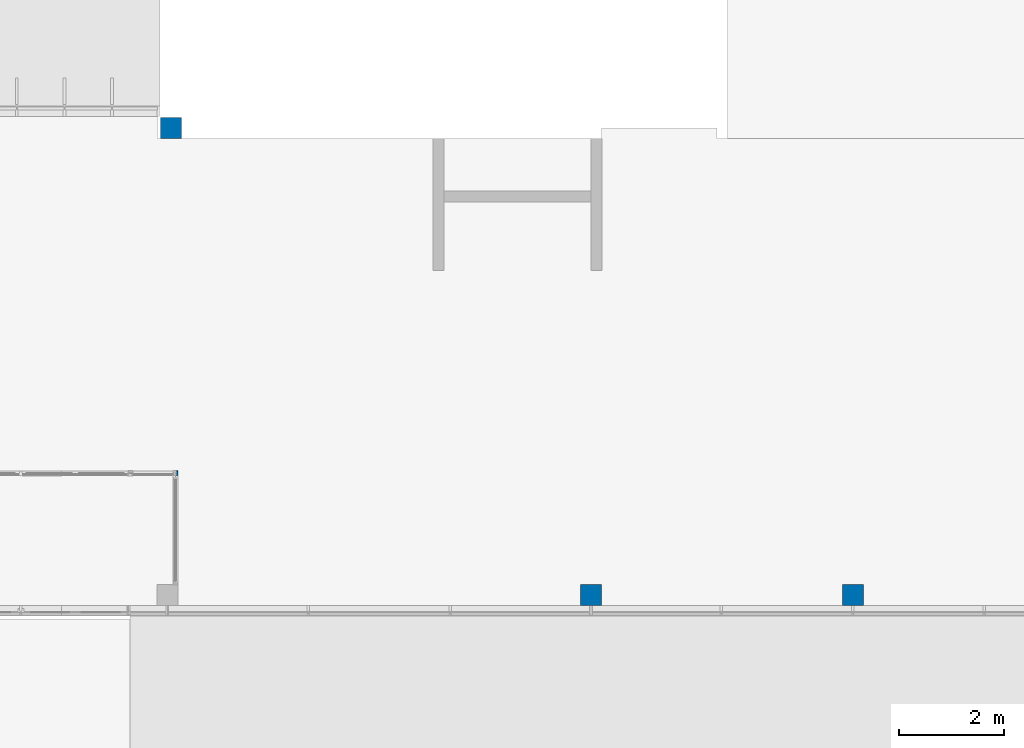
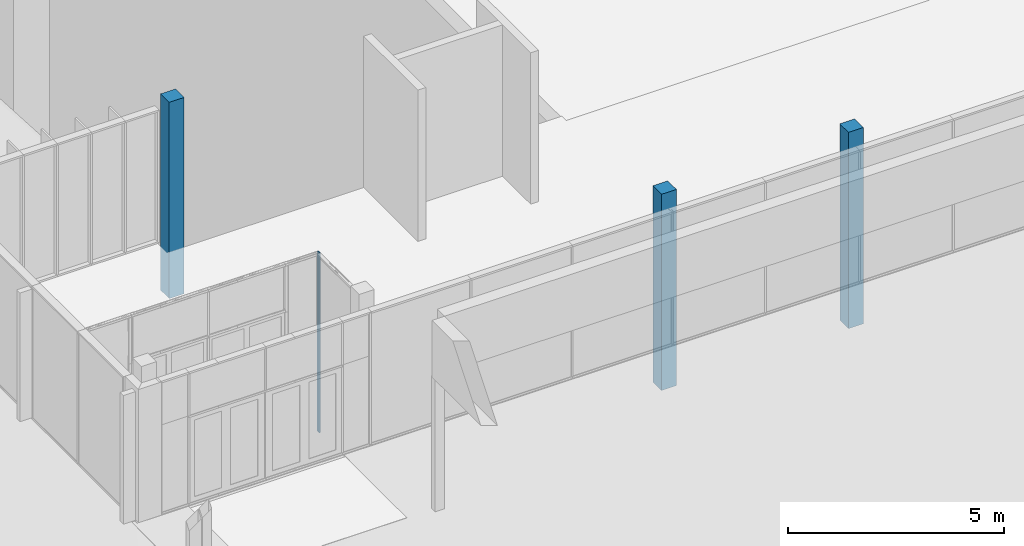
# One storey, part 2 of 69: 4 columns.
"""IFC2X3 building model written with IfcOpenShell, lengths in millimetres."""

from ifc_helpers import new_model, entity, si_unit, converted_unit, derived_unit, money_unit, direction, frame, origin_with_axes, origin_2d_with_axis, place, context, subcontext, project, spatial, rectangle, extrude, material, type_object, element, save


model = new_model("IFC2X3")

# Units and contexts
model_context = context("Model", 3, precision=0.01, world=origin_with_axes(), true_north=direction((0.0, 1.0)))
body_context = subcontext(model_context, "Body", "Model", "MODEL_VIEW")
ifc_project = project(units=[si_unit("LENGTHUNIT", "METRE", prefix="MILLI"), si_unit("AREAUNIT", "SQUARE_METRE"), si_unit("VOLUMEUNIT", "CUBIC_METRE"), converted_unit("PLANEANGLEUNIT", "DEGREE", entity("IfcPlaneAngleMeasure", 0.0174532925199), si_unit("PLANEANGLEUNIT", "RADIAN"), dimensions=[0, 0, 0, 0, 0, 0, 0]), si_unit("SOLIDANGLEUNIT", "STERADIAN"), money_unit("EUR"), converted_unit("TIMEUNIT", "Year", entity("IfcTimeMeasure", 31556926.0), si_unit("TIMEUNIT", "SECOND"), dimensions=[0, 0, 1, 0, 0, 0, 0]), si_unit("MASSUNIT", "GRAM", prefix="KILO"), si_unit("THERMODYNAMICTEMPERATUREUNIT", "DEGREE_CELSIUS"), si_unit("LUMINOUSINTENSITYUNIT", "LUMEN"), si_unit("ENERGYUNIT", "JOULE", prefix="MEGA"), derived_unit("THERMALCONDUCTANCEUNIT", [(si_unit("POWERUNIT", "WATT"), 1), (si_unit("LENGTHUNIT", "METRE"), -1), (si_unit("THERMODYNAMICTEMPERATUREUNIT", "KELVIN"), -1)]), derived_unit("SPECIFICHEATCAPACITYUNIT", [(si_unit("ENERGYUNIT", "JOULE"), 1), (si_unit("MASSUNIT", "GRAM", prefix="KILO"), -1), (si_unit("THERMODYNAMICTEMPERATUREUNIT", "KELVIN"), -1)]), derived_unit("MASSDENSITYUNIT", [(si_unit("MASSUNIT", "GRAM", prefix="KILO"), 1), (si_unit("VOLUMEUNIT", "CUBIC_METRE"), -1)])], contexts=[model_context])

# Site, building, storey
site_placement = place(None, origin_with_axes())
site = spatial("IfcSite", under=ifc_project, at=site_placement, Name="Puškini 31, Narva", CompositionType="ELEMENT")
building_placement = place(site_placement, origin_with_axes())
building = spatial("IfcBuilding", under=site, at=building_placement, Name="Narva Riigigümnaasium", CompositionType="ELEMENT")
storey_placement = place(building_placement, origin_with_axes())
storey = spatial("IfcBuildingStorey", under=building, at=storey_placement, Name="1.korrus 0.00", CompositionType="ELEMENT", Elevation=0.0)

# Columns
ifc_material_1 = material(Name="Betoon element")
column_type_1 = type_object("IfcColumnType", Name="Betoon element 400 x 400", PredefinedType="COLUMN")
for number, where, z_axis, x_axis, name in (
    (1, (22199.9998943, 159199.999992, -1320.0), (0.0, 0.0, 1.0), (0.0, 1.0, 0.0), "Post"),
    (2, (30201.9999988, 150300.00001, -1320.0), (0.0, 0.0, 1.0), (0.0, 1.0, 0.0), "Post"),
    (3, (35194.9660662, 150300.00001, -1320.0), (0.0, 0.0, 1.0), (0.0, 1.0, 0.0), "Post"),
):
    element("IfcColumn", number, at=place(storey_placement, frame(where, z_axis=z_axis, x_axis=x_axis)), inside=storey, type_object=column_type_1, material=ifc_material_1, Name=name, ObjectType="COLUMN", context=body_context, shape_type="SweptSolid", body=[
        extrude(rectangle(XDim=400.0, YDim=400.0, at=origin_2d_with_axis()), origin_with_axes(), (0.0, 0.0, 1.0), 5540.0),
    ])
ifc_material_2 = material(Name="ET-05_Teras")
column_type_2 = type_object("IfcColumnType", Name="ET-05_Teras 36 x 90", PredefinedType="COLUMN")
column_placement = place(storey_placement, frame((22312.3673645, 152620.005853, -1320.0), z_axis=(0.0, 0.0, 1.0), x_axis=(1.0, 0.0, 0.0)))
element("IfcColumn", 4, at=column_placement, inside=storey, type_object=column_type_2, material=ifc_material_2, Name="Post", ObjectType="COLUMN", context=body_context, shape_type="SweptSolid", body=[
    extrude(rectangle(XDim=36.0, YDim=90.0, at=origin_2d_with_axis()), origin_with_axes(), (0.0, 0.0, 1.0), 5080.0),
])

save(model, "model.ifc")
